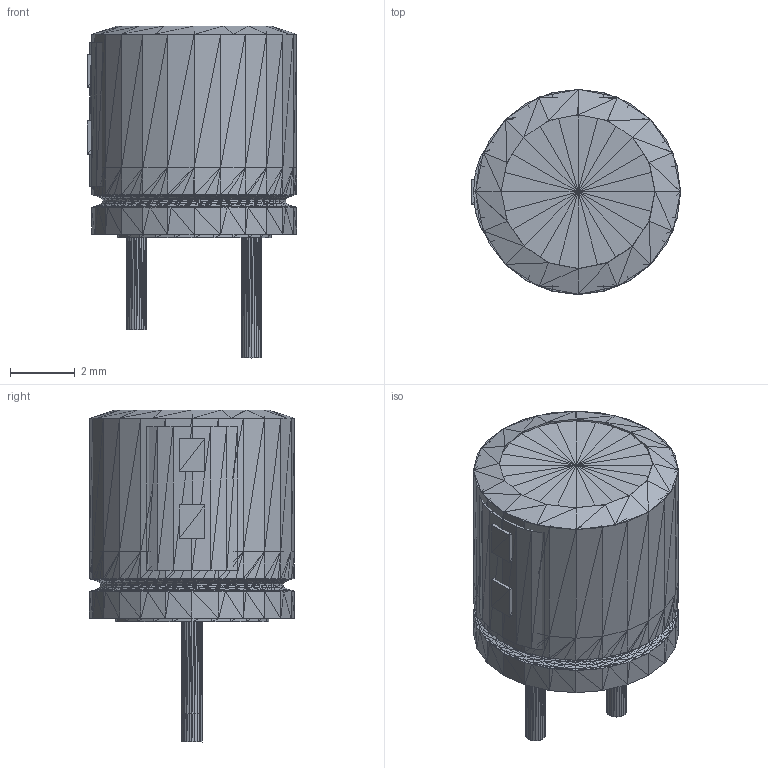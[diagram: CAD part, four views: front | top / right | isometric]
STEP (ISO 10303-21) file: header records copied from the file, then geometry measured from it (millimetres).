
FILE_DESCRIPTION(('HOOPS Exchange Step'),'2;1');
FILE_NAME('***.stp');
FILE_SCHEMA( ('AP242_MANAGED_MODEL_BASED_3D_ENGINEERING_MIM_LF {1 0 10303 442 1 1 4 }') );
Length unit declared in the file: inch
Products named in the file (11): CAPOLV250MIL_2; CAPOLV250MIL_3; CAPOLV250MIL_4; CAPOLV250MIL_5; CAPOLV250MIL_6; CAPOLV250MIL_7; CAPOLV250MIL_8; CAPOLV250MIL_9; CAPOLV250MIL_10; CAPOLV250MIL_11; CAPOLV250MIL
Assembly tree (10 placements, depth 2):
  CAPOLV250MIL
    CAPOLV250MIL_2
    CAPOLV250MIL_3
    CAPOLV250MIL_4
    CAPOLV250MIL_5
    CAPOLV250MIL_6
    CAPOLV250MIL_7
    CAPOLV250MIL_8
    CAPOLV250MIL_9
    CAPOLV250MIL_10
    CAPOLV250MIL_11
Bounding box: 6.48 x 6.35 x 10.28 mm (x, y, z)
Volume: 221.6 mm3; surface area: 432.9 mm2
Topology: 10 solids, 10 shells, 2004 faces, 3006 edges, 1020 vertices
Faces by surface type: plane 2004
Entity records: 39590 total; most frequent: DIRECTION 7058, CARTESIAN_POINT 6052, ORIENTED_EDGE 6012, VECTOR 3006, LINE 3006, EDGE_CURVE 3006, AXIS2_PLACEMENT_3D 2026, PLANE 2004
